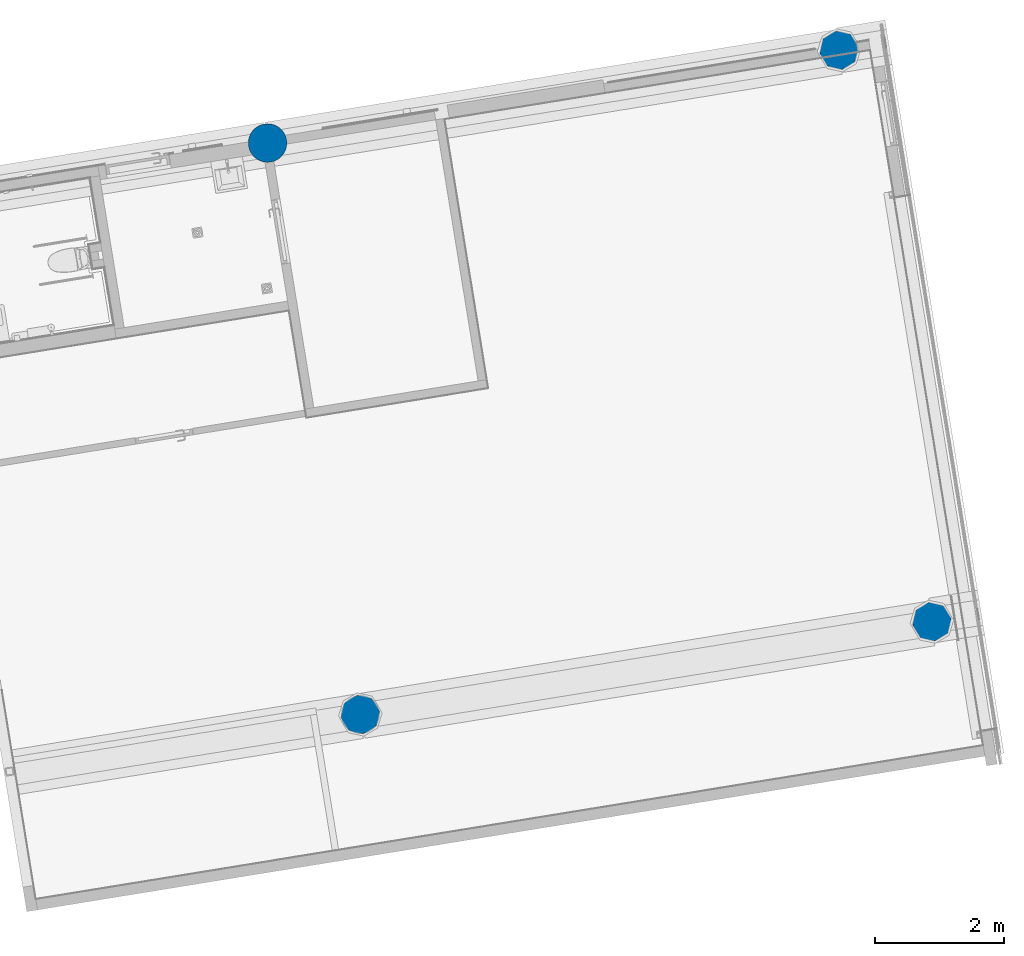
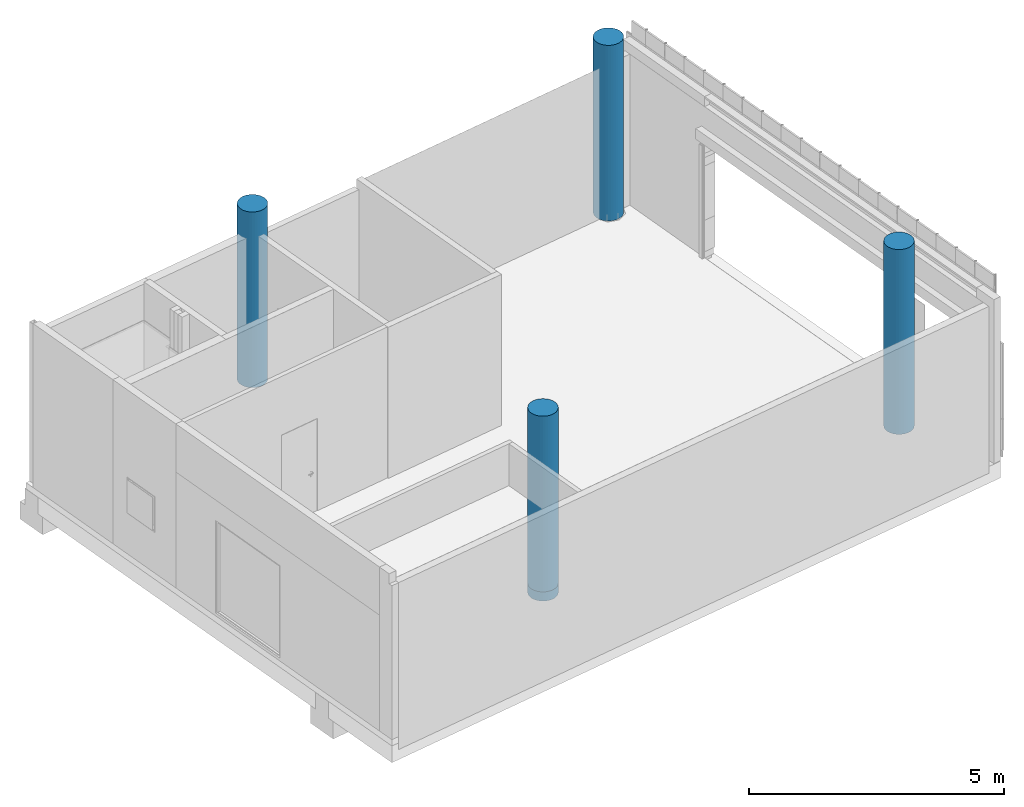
# One storey, part 18 of 38: 5 columns.
"""IFC2X3 building model written with IfcOpenShell, lengths in millimetres."""

from ifc_helpers import new_model, entity, si_unit, converted_unit, derived_unit, direction, frame, origin, origin_with_axes, place, context, subcontext, project, spatial, faceted_brep, material, type_object, element, save


model = new_model("IFC2X3")

# Units and contexts
model_context = context("Model", 3, precision=0.01, world=origin(), true_north=direction((6.12323399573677e-17, 1.0)))
plan_context = context("Plan", 3, precision=1e-05, world=origin_with_axes())
body_context = subcontext(model_context, "Body", "Model", "MODEL_VIEW")
ifc_project = project(units=[converted_unit("PLANEANGLEUNIT", "DEGREE", entity("IfcPositiveLengthMeasure", 0.0174532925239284), si_unit("PLANEANGLEUNIT", "RADIAN"), dimensions=[0, 0, 0, 0, 0, 0, 0]), si_unit("AREAUNIT", "SQUARE_METRE"), si_unit("LENGTHUNIT", "METRE", prefix="MILLI"), si_unit("MASSUNIT", "GRAM", prefix="KILO"), si_unit("POWERUNIT", "WATT"), si_unit("PRESSUREUNIT", "PASCAL", prefix="KILO"), si_unit("FORCEUNIT", "NEWTON", prefix="KILO"), si_unit("ELECTRICVOLTAGEUNIT", "VOLT"), si_unit("ELECTRICCURRENTUNIT", "AMPERE"), si_unit("THERMODYNAMICTEMPERATUREUNIT", "DEGREE_CELSIUS"), si_unit("TIMEUNIT", "SECOND"), si_unit("VOLUMEUNIT", "CUBIC_METRE"), derived_unit("LINEARVELOCITYUNIT", [(si_unit("LENGTHUNIT", "METRE"), 1), (si_unit("TIMEUNIT", "SECOND"), -1)]), derived_unit("VOLUMETRICFLOWRATEUNIT", [(si_unit("VOLUMEUNIT", "CUBIC_METRE"), 1), (si_unit("TIMEUNIT", "SECOND"), -1)]), derived_unit("THERMALTRANSMITTANCEUNIT", [(si_unit("POWERUNIT", "WATT"), 1), (si_unit("THERMODYNAMICTEMPERATUREUNIT", "KELVIN"), -1), (si_unit("AREAUNIT", "SQUARE_METRE"), -1)]), derived_unit("SOUNDPRESSUREUNIT", [(si_unit("PRESSUREUNIT", "PASCAL"), 1)])], contexts=[model_context, plan_context])

# Site, building, storey
site_placement = place(None, frame((-0.00071070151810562, 0.00438415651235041, 0.0), z_axis=(0.0, 0.0, 1.0), x_axis=(-0.160236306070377, 0.987078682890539, 0.0)))
site = spatial("IfcSite", under=ifc_project, at=site_placement, Name="Default", CompositionType="ELEMENT")
building_placement = place(site_placement, origin_with_axes())
building = spatial("IfcBuilding", under=site, at=building_placement, Name="TOO", CompositionType="ELEMENT")
storey_placement = place(building_placement, frame((0.0, 0.0, 50999.9999999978), z_axis=(0.0, 0.0, 1.0), x_axis=(1.0, 0.0, 0.0)))
storey = spatial("IfcBuildingStorey", under=building, at=storey_placement, Name="Nivå D-H01", CompositionType="ELEMENT", Elevation=50999.9999999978)

# Columns
ifc_material = material(Name="A200 - Betong")
column_type_1 = type_object("IfcColumnType", Name="A222 - Prefabrikert Sirkulær Betongsøyle:A222 - Prefabrikert Sirkulær Betongsøyle - Ø 600 mm", PredefinedType="COLUMN", material=ifc_material)
column_1_placement = place(storey_placement, frame((0.0, 0.0, -50999.9999999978), z_axis=(0.0, 0.0, 1.0), x_axis=(1.0, 0.0, 0.0)))
element("IfcColumn", 1, at=column_1_placement, inside=storey, type_object=column_type_1, Name="A222 - Prefabrikert Sirkulær Betongsøyle:A222 - Prefabrikert Sirkulær Betongsøyle - Ø 600 mm", ObjectType="A222 - Prefabrikert Sirkulær Betongsøyle:A222 - Prefabrikert Sirkulær Betongsøyle - Ø 600 mm", context=body_context, shape_type="Brep", body=[
    faceted_brep([(771173.06196997, -603554.574952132, 55199.9999999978), (771177.619644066, -603502.480498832, 55199.9999999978), (771177.619644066, -603502.480498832, 50779.9999999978), (771173.06196997, -603554.574952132, 50779.9999999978), (771173.06196997, -603450.386045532, 55199.9999999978), (771173.06196997, -603450.386045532, 50779.9999999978), (771159.527430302, -603399.874455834, 55199.9999999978), (771159.527430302, -603399.874455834, 50779.9999999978), (771137.427265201, -603352.480498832, 55199.9999999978), (771137.427265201, -603352.480498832, 50779.9999999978), (771107.432977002, -603309.644215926, 55199.9999999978), (771107.432977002, -603309.644215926, 50779.9999999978), (771070.455926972, -603272.667165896, 55199.9999999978), (771070.455926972, -603272.667165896, 50779.9999999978), (771027.619644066, -603242.672877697, 55199.9999999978), (771027.619644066, -603242.672877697, 50779.9999999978), (770980.225687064, -603220.572712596, 55199.9999999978), (770980.225687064, -603220.572712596, 50779.9999999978), (770929.714097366, -603207.038172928, 55199.9999999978), (770929.714097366, -603207.038172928, 50779.9999999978), (770877.619644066, -603202.480498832, 55199.9999999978), (770877.619644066, -603202.480498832, 50779.9999999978), (770825.525190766, -603207.038172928, 55199.9999999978), (770825.525190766, -603207.038172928, 50779.9999999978), (770775.013601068, -603220.572712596, 55199.9999999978), (770775.013601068, -603220.572712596, 50779.9999999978), (770727.619644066, -603242.672877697, 55199.9999999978), (770727.619644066, -603242.672877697, 50779.9999999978), (770684.78336116, -603272.667165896, 55199.9999999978), (770684.78336116, -603272.667165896, 50779.9999999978), (770647.80631113, -603309.644215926, 55199.9999999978), (770647.80631113, -603309.644215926, 50779.9999999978), (770617.812022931, -603352.480498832, 55199.9999999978), (770617.812022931, -603352.480498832, 50779.9999999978), (770595.71185783, -603399.874455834, 55199.9999999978), (770595.71185783, -603399.874455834, 50779.9999999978), (770582.177318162, -603450.386045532, 55199.9999999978), (770582.177318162, -603450.386045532, 50779.9999999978), (770577.619644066, -603502.480498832, 55199.9999999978), (770577.619644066, -603502.480498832, 50779.9999999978), (770582.177318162, -603554.574952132, 55199.9999999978), (770582.177318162, -603554.574952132, 50779.9999999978), (770595.71185783, -603605.08654183, 55199.9999999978), (770595.71185783, -603605.08654183, 50779.9999999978), (770617.812022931, -603652.480498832, 55199.9999999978), (770617.812022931, -603652.480498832, 50779.9999999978), (770647.80631113, -603695.316781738, 55199.9999999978), (770647.80631113, -603695.316781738, 50779.9999999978), (770684.78336116, -603732.293831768, 55199.9999999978), (770684.78336116, -603732.293831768, 50779.9999999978), (770727.619644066, -603762.288119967, 55199.9999999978), (770727.619644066, -603762.288119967, 50779.9999999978), (770775.013601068, -603784.388285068, 55199.9999999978), (770775.013601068, -603784.388285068, 50779.9999999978), (770825.525190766, -603797.922824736, 55199.9999999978), (770825.525190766, -603797.922824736, 50779.9999999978), (770877.619644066, -603802.480498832, 55199.9999999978), (770877.619644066, -603802.480498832, 50779.9999999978), (770929.714097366, -603797.922824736, 55199.9999999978), (770929.714097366, -603797.922824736, 50779.9999999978), (770980.225687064, -603784.388285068, 55199.9999999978), (770980.225687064, -603784.388285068, 50779.9999999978), (771027.619644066, -603762.288119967, 55199.9999999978), (771027.619644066, -603762.288119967, 50779.9999999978), (771070.455926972, -603732.293831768, 55199.9999999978), (771070.455926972, -603732.293831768, 50779.9999999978), (771107.432977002, -603695.316781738, 55199.9999999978), (771107.432977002, -603695.316781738, 50779.9999999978), (771137.427265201, -603652.480498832, 55199.9999999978), (771137.427265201, -603652.480498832, 50779.9999999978), (771159.527430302, -603605.08654183, 55199.9999999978), (771159.527430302, -603605.08654183, 50779.9999999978)], [[[0, 1, 2, 3]], [[1, 4, 5, 2]], [[4, 6, 7, 5]], [[6, 8, 9, 7]], [[8, 10, 11, 9]], [[10, 12, 13, 11]], [[12, 14, 15, 13]], [[14, 16, 17, 15]], [[16, 18, 19, 17]], [[18, 20, 21, 19]], [[20, 22, 23, 21]], [[22, 24, 25, 23]], [[24, 26, 27, 25]], [[26, 28, 29, 27]], [[28, 30, 31, 29]], [[30, 32, 33, 31]], [[32, 34, 35, 33]], [[34, 36, 37, 35]], [[36, 38, 39, 37]], [[38, 40, 41, 39]], [[40, 42, 43, 41]], [[42, 44, 45, 43]], [[44, 46, 47, 45]], [[46, 48, 49, 47]], [[48, 50, 51, 49]], [[50, 52, 53, 51]], [[52, 54, 55, 53]], [[54, 56, 57, 55]], [[56, 58, 59, 57]], [[58, 60, 61, 59]], [[60, 62, 63, 61]], [[62, 64, 65, 63]], [[64, 66, 67, 65]], [[66, 68, 69, 67]], [[68, 70, 71, 69]], [[70, 0, 3, 71]], [[3, 2, 5, 7, 9, 11, 13, 15, 17, 19, 21, 23, 25, 27, 29, 31, 33, 35, 37, 39, 41, 43, 45, 47, 49, 51, 53, 55, 57, 59, 61, 63, 65, 67, 69, 71]], [[70, 68, 66, 64, 62, 60, 58, 56, 54, 52, 50, 48, 46, 44, 42, 40, 38, 36, 34, 32, 30, 28, 26, 24, 22, 20, 18, 16, 14, 12, 10, 8, 6, 4, 1, 0]]], orient=[[False], [False], [False], [False], [False], [False], [False], [False], [False], [False], [False], [False], [False], [False], [False], [False], [False], [False], [False], [False], [False], [False], [False], [False], [False], [False], [False], [False], [False], [False], [False], [False], [False], [False], [False], [False], [False], [False]]),
])
column_type_2 = type_object("IfcColumnType", Name="A222 - Prefabrikert Sirkulær Betongsøyle:A222 - Prefabrikert Sirkulær Betongsøyle - Ø 600 mm", PredefinedType="COLUMN", material=ifc_material)
column_2_placement = place(storey_placement, frame((0.0, 0.0, -50999.9999999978), z_axis=(0.0, 0.0, 1.0), x_axis=(1.0, 0.0, 0.0)))
element("IfcColumn", 2, at=column_2_placement, inside=storey, type_object=column_type_2, Name="A222 - Prefabrikert Sirkulær Betongsøyle:A222 - Prefabrikert Sirkulær Betongsøyle - Ø 600 mm", ObjectType="A222 - Prefabrikert Sirkulær Betongsøyle:A222 - Prefabrikert Sirkulær Betongsøyle - Ø 600 mm", context=body_context, shape_type="Brep", body=[
    faceted_brep([(771173.06196997, -594554.574952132, 55199.9999999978), (771177.619644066, -594502.480498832, 55199.9999999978), (771177.619644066, -594502.480498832, 50779.9999999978), (771173.06196997, -594554.574952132, 50779.9999999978), (771173.06196997, -594450.386045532, 55199.9999999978), (771173.06196997, -594450.386045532, 50779.9999999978), (771159.527430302, -594399.874455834, 55199.9999999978), (771159.527430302, -594399.874455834, 50779.9999999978), (771137.427265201, -594352.480498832, 55199.9999999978), (771137.427265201, -594352.480498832, 50779.9999999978), (771107.432977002, -594309.644215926, 55199.9999999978), (771107.432977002, -594309.644215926, 50779.9999999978), (771070.455926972, -594272.667165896, 55199.9999999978), (771070.455926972, -594272.667165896, 50779.9999999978), (771027.619644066, -594242.672877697, 55199.9999999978), (771027.619644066, -594242.672877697, 50779.9999999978), (770980.225687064, -594220.572712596, 55199.9999999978), (770980.225687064, -594220.572712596, 50779.9999999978), (770929.714097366, -594207.038172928, 55199.9999999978), (770929.714097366, -594207.038172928, 50779.9999999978), (770877.619644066, -594202.480498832, 55199.9999999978), (770877.619644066, -594202.480498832, 50779.9999999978), (770825.525190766, -594207.038172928, 55199.9999999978), (770825.525190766, -594207.038172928, 50779.9999999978), (770775.013601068, -594220.572712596, 55199.9999999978), (770775.013601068, -594220.572712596, 50779.9999999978), (770727.619644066, -594242.672877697, 55199.9999999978), (770727.619644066, -594242.672877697, 50779.9999999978), (770684.78336116, -594272.667165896, 55199.9999999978), (770684.78336116, -594272.667165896, 50779.9999999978), (770647.80631113, -594309.644215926, 55199.9999999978), (770647.80631113, -594309.644215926, 50779.9999999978), (770617.812022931, -594352.480498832, 55199.9999999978), (770617.812022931, -594352.480498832, 50779.9999999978), (770595.71185783, -594399.874455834, 55199.9999999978), (770595.71185783, -594399.874455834, 50779.9999999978), (770582.177318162, -594450.386045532, 55199.9999999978), (770582.177318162, -594450.386045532, 50779.9999999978), (770577.619644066, -594502.480498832, 55199.9999999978), (770577.619644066, -594502.480498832, 50779.9999999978), (770582.177318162, -594554.574952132, 55199.9999999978), (770582.177318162, -594554.574952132, 50779.9999999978), (770595.71185783, -594605.08654183, 55199.9999999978), (770595.71185783, -594605.08654183, 50779.9999999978), (770617.812022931, -594652.480498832, 55199.9999999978), (770617.812022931, -594652.480498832, 50779.9999999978), (770647.80631113, -594695.316781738, 55199.9999999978), (770647.80631113, -594695.316781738, 50779.9999999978), (770684.78336116, -594732.293831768, 55199.9999999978), (770684.78336116, -594732.293831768, 50779.9999999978), (770727.619644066, -594762.288119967, 55199.9999999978), (770727.619644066, -594762.288119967, 50779.9999999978), (770775.013601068, -594784.388285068, 55199.9999999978), (770775.013601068, -594784.388285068, 50779.9999999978), (770825.525190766, -594797.922824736, 55199.9999999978), (770825.525190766, -594797.922824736, 50779.9999999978), (770877.619644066, -594802.480498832, 55199.9999999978), (770877.619644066, -594802.480498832, 50779.9999999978), (770929.714097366, -594797.922824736, 55199.9999999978), (770929.714097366, -594797.922824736, 50779.9999999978), (770980.225687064, -594784.388285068, 55199.9999999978), (770980.225687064, -594784.388285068, 50779.9999999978), (771027.619644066, -594762.288119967, 55199.9999999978), (771027.619644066, -594762.288119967, 50779.9999999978), (771070.455926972, -594732.293831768, 55199.9999999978), (771070.455926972, -594732.293831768, 50779.9999999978), (771107.432977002, -594695.316781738, 55199.9999999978), (771107.432977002, -594695.316781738, 50779.9999999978), (771137.427265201, -594652.480498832, 55199.9999999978), (771137.427265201, -594652.480498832, 50779.9999999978), (771159.527430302, -594605.08654183, 55199.9999999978), (771159.527430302, -594605.08654183, 50779.9999999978)], [[[0, 1, 2, 3]], [[1, 4, 5, 2]], [[4, 6, 7, 5]], [[6, 8, 9, 7]], [[8, 10, 11, 9]], [[10, 12, 13, 11]], [[12, 14, 15, 13]], [[14, 16, 17, 15]], [[16, 18, 19, 17]], [[18, 20, 21, 19]], [[20, 22, 23, 21]], [[22, 24, 25, 23]], [[24, 26, 27, 25]], [[26, 28, 29, 27]], [[28, 30, 31, 29]], [[30, 32, 33, 31]], [[32, 34, 35, 33]], [[34, 36, 37, 35]], [[36, 38, 39, 37]], [[38, 40, 41, 39]], [[40, 42, 43, 41]], [[42, 44, 45, 43]], [[44, 46, 47, 45]], [[46, 48, 49, 47]], [[48, 50, 51, 49]], [[50, 52, 53, 51]], [[52, 54, 55, 53]], [[54, 56, 57, 55]], [[56, 58, 59, 57]], [[58, 60, 61, 59]], [[60, 62, 63, 61]], [[62, 64, 65, 63]], [[64, 66, 67, 65]], [[66, 68, 69, 67]], [[68, 70, 71, 69]], [[70, 0, 3, 71]], [[3, 2, 5, 7, 9, 11, 13, 15, 17, 19, 21, 23, 25, 27, 29, 31, 33, 35, 37, 39, 41, 43, 45, 47, 49, 51, 53, 55, 57, 59, 61, 63, 65, 67, 69, 71]], [[70, 68, 66, 64, 62, 60, 58, 56, 54, 52, 50, 48, 46, 44, 42, 40, 38, 36, 34, 32, 30, 28, 26, 24, 22, 20, 18, 16, 14, 12, 10, 8, 6, 4, 1, 0]]], orient=[[False], [False], [False], [False], [False], [False], [False], [False], [False], [False], [False], [False], [False], [False], [False], [False], [False], [False], [False], [False], [False], [False], [False], [False], [False], [False], [False], [False], [False], [False], [False], [False], [False], [False], [False], [False], [False], [False]]),
])
column_type_3 = type_object("IfcColumnType", Name="A222 - Prefabrikert Sirkulær Betongsøyle:A222 - Prefabrikert Sirkulær Betongsøyle - Ø 600 mm", PredefinedType="COLUMN", material=ifc_material)
column_3_placement = place(storey_placement, frame((0.0, 0.0, -50999.9999999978), z_axis=(0.0, 0.0, 1.0), x_axis=(1.0, 0.0, 0.0)))
element("IfcColumn", 3, at=column_3_placement, inside=storey, type_object=column_type_3, Name="A222 - Prefabrikert Sirkulær Betongsøyle:A222 - Prefabrikert Sirkulær Betongsøyle - Ø 600 mm", ObjectType="A222 - Prefabrikert Sirkulær Betongsøyle:A222 - Prefabrikert Sirkulær Betongsøyle - Ø 600 mm", context=body_context, shape_type="Brep", body=[
    faceted_brep([(780173.06196997, -603554.574952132, 55199.9999999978), (780177.619644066, -603502.480498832, 55199.9999999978), (780177.619644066, -603502.480498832, 50999.9999999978), (780173.06196997, -603554.574952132, 50999.9999999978), (780173.06196997, -603450.386045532, 55199.9999999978), (780173.06196997, -603450.386045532, 50999.9999999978), (780159.527430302, -603399.874455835, 55199.9999999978), (780159.527430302, -603399.874455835, 50999.9999999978), (780137.427265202, -603352.480498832, 55199.9999999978), (780137.427265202, -603352.480498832, 50999.9999999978), (780107.432977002, -603309.644215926, 55199.9999999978), (780107.432977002, -603309.644215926, 50999.9999999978), (780070.455926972, -603272.667165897, 55199.9999999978), (780070.455926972, -603272.667165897, 50999.9999999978), (780027.619644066, -603242.672877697, 55199.9999999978), (780027.619644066, -603242.672877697, 50999.9999999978), (779980.225687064, -603220.572712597, 55199.9999999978), (779980.225687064, -603220.572712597, 50999.9999999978), (779929.714097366, -603207.038172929, 55199.9999999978), (779929.714097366, -603207.038172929, 50999.9999999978), (779877.619644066, -603202.480498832, 55199.9999999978), (779877.619644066, -603202.480498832, 50999.9999999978), (779825.525190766, -603207.038172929, 55199.9999999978), (779825.525190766, -603207.038172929, 50999.9999999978), (779775.013601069, -603220.572712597, 55199.9999999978), (779775.013601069, -603220.572712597, 50999.9999999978), (779727.619644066, -603242.672877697, 55199.9999999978), (779727.619644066, -603242.672877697, 50999.9999999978), (779684.78336116, -603272.667165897, 55199.9999999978), (779684.78336116, -603272.667165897, 50999.9999999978), (779647.806311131, -603309.644215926, 55199.9999999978), (779647.806311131, -603309.644215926, 50999.9999999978), (779617.812022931, -603352.480498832, 55199.9999999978), (779617.812022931, -603352.480498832, 50999.9999999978), (779595.711857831, -603399.874455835, 55199.9999999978), (779595.711857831, -603399.874455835, 50999.9999999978), (779582.177318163, -603450.386045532, 55199.9999999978), (779582.177318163, -603450.386045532, 50999.9999999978), (779577.619644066, -603502.480498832, 55199.9999999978), (779577.619644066, -603502.480498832, 50999.9999999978), (779582.177318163, -603554.574952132, 55199.9999999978), (779582.177318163, -603554.574952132, 50999.9999999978), (779595.711857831, -603605.08654183, 55199.9999999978), (779595.711857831, -603605.08654183, 50999.9999999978), (779617.812022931, -603652.480498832, 55199.9999999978), (779617.812022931, -603652.480498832, 50999.9999999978), (779647.806311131, -603695.316781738, 55199.9999999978), (779647.806311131, -603695.316781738, 50999.9999999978), (779684.78336116, -603732.293831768, 55199.9999999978), (779684.78336116, -603732.293831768, 50999.9999999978), (779727.619644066, -603762.288119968, 55199.9999999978), (779727.619644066, -603762.288119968, 50999.9999999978), (779775.013601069, -603784.388285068, 55199.9999999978), (779775.013601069, -603784.388285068, 50999.9999999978), (779825.525190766, -603797.922824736, 55199.9999999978), (779825.525190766, -603797.922824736, 50999.9999999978), (779877.619644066, -603802.480498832, 55199.9999999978), (779877.619644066, -603802.480498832, 50999.9999999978), (779929.714097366, -603797.922824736, 55199.9999999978), (779929.714097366, -603797.922824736, 50999.9999999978), (779980.225687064, -603784.388285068, 55199.9999999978), (779980.225687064, -603784.388285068, 50999.9999999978), (780027.619644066, -603762.288119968, 55199.9999999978), (780027.619644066, -603762.288119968, 50999.9999999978), (780070.455926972, -603732.293831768, 55199.9999999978), (780070.455926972, -603732.293831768, 50999.9999999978), (780107.432977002, -603695.316781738, 55199.9999999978), (780107.432977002, -603695.316781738, 50999.9999999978), (780137.427265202, -603652.480498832, 55199.9999999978), (780137.427265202, -603652.480498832, 50999.9999999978), (780159.527430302, -603605.08654183, 55199.9999999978), (780159.527430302, -603605.08654183, 50999.9999999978)], [[[0, 1, 2, 3]], [[1, 4, 5, 2]], [[4, 6, 7, 5]], [[6, 8, 9, 7]], [[8, 10, 11, 9]], [[10, 12, 13, 11]], [[12, 14, 15, 13]], [[14, 16, 17, 15]], [[16, 18, 19, 17]], [[18, 20, 21, 19]], [[20, 22, 23, 21]], [[22, 24, 25, 23]], [[24, 26, 27, 25]], [[26, 28, 29, 27]], [[28, 30, 31, 29]], [[30, 32, 33, 31]], [[32, 34, 35, 33]], [[34, 36, 37, 35]], [[36, 38, 39, 37]], [[38, 40, 41, 39]], [[40, 42, 43, 41]], [[42, 44, 45, 43]], [[44, 46, 47, 45]], [[46, 48, 49, 47]], [[48, 50, 51, 49]], [[50, 52, 53, 51]], [[52, 54, 55, 53]], [[54, 56, 57, 55]], [[56, 58, 59, 57]], [[58, 60, 61, 59]], [[60, 62, 63, 61]], [[62, 64, 65, 63]], [[64, 66, 67, 65]], [[66, 68, 69, 67]], [[68, 70, 71, 69]], [[70, 0, 3, 71]], [[3, 2, 5, 7, 9, 11, 13, 15, 17, 19, 21, 23, 25, 27, 29, 31, 33, 35, 37, 39, 41, 43, 45, 47, 49, 51, 53, 55, 57, 59, 61, 63, 65, 67, 69, 71]], [[70, 68, 66, 64, 62, 60, 58, 56, 54, 52, 50, 48, 46, 44, 42, 40, 38, 36, 34, 32, 30, 28, 26, 24, 22, 20, 18, 16, 14, 12, 10, 8, 6, 4, 1, 0]]], orient=[[False], [False], [False], [False], [False], [False], [False], [False], [False], [False], [False], [False], [False], [False], [False], [False], [False], [False], [False], [False], [False], [False], [False], [False], [False], [False], [False], [False], [False], [False], [False], [False], [False], [False], [False], [False], [False], [False]]),
])
column_type_4 = type_object("IfcColumnType", Name="A222 - Prefabrikert Sirkulær Betongsøyle:A222 - Prefabrikert Sirkulær Betongsøyle - Ø 600 mm", PredefinedType="COLUMN", material=ifc_material)
column_4_placement = place(storey_placement, frame((770877.619644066, -594502.480498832, -50999.9999999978), z_axis=(0.0, 0.0, 1.0), x_axis=(1.0, 0.0, 0.0)))
element("IfcColumn", 4, at=column_4_placement, inside=storey, type_object=column_type_4, Name="A222 - Prefabrikert Sirkulær Betongsøyle:A222 - Prefabrikert Sirkulær Betongsøyle - Ø 600 mm", ObjectType="A222 - Prefabrikert Sirkulær Betongsøyle:A222 - Prefabrikert Sirkulær Betongsøyle - Ø 600 mm", context=body_context, shape_type="Brep", body=[
    faceted_brep([(295.442325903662, -52.0944533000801, 55199.9999999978), (300.0, -7.38964445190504e-13, 55199.9999999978), (300.0, -7.38964445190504e-13, 50999.9999999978), (295.442325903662, -52.0944533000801, 50999.9999999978), (295.442325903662, 52.0944533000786, 55199.9999999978), (295.442325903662, 52.0944533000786, 50999.9999999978), (281.907786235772, 102.6060429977, 55199.9999999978), (281.907786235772, 102.6060429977, 50999.9999999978), (259.807621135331, 150.0, 55199.9999999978), (259.807621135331, 150.0, 50999.9999999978), (229.813332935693, 192.836282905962, 55199.9999999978), (229.813332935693, 192.836282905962, 50999.9999999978), (192.836282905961, 229.813332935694, 55199.9999999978), (192.836282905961, 229.813332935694, 50999.9999999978), (149.999999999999, 259.807621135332, 55199.9999999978), (149.999999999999, 259.807621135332, 50999.9999999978), (102.606042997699, 281.907786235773, 55199.9999999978), (102.606042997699, 281.907786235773, 50999.9999999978), (52.0944533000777, 295.442325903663, 55199.9999999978), (52.0944533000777, 295.442325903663, 50999.9999999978), (-1.6023079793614e-12, 300.000000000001, 55199.9999999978), (-1.6023079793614e-12, 300.000000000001, 50999.9999999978), (-52.0944533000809, 295.442325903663, 55199.9999999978), (-52.0944533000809, 295.442325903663, 50999.9999999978), (-102.606042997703, 281.907786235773, 55199.9999999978), (-102.606042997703, 281.907786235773, 50999.9999999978), (-150.000000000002, 259.807621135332, 55199.9999999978), (-150.000000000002, 259.807621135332, 50999.9999999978), (-192.836282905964, 229.813332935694, 55199.9999999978), (-192.836282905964, 229.813332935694, 50999.9999999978), (-229.813332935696, 192.836282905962, 55199.9999999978), (-229.813332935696, 192.836282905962, 50999.9999999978), (-259.807621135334, 150.0, 55199.9999999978), (-259.807621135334, 150.0, 50999.9999999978), (-281.907786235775, 102.6060429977, 55199.9999999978), (-281.907786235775, 102.6060429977, 50999.9999999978), (-295.442325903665, 52.0944533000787, 55199.9999999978), (-295.442325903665, 52.0944533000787, 50999.9999999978), (-300.000000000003, -6.96331881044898e-13, 55199.9999999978), (-300.000000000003, -6.96331881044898e-13, 50999.9999999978), (-295.442325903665, -52.09445330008, 55199.9999999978), (-295.442325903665, -52.09445330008, 50999.9999999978), (-281.907786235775, -102.606042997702, 55199.9999999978), (-281.907786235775, -102.606042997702, 50999.9999999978), (-259.807621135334, -150.000000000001, 55199.9999999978), (-259.807621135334, -150.000000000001, 50999.9999999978), (-229.813332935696, -192.836282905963, 55199.9999999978), (-229.813332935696, -192.836282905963, 50999.9999999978), (-192.836282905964, -229.813332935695, 55199.9999999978), (-192.836282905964, -229.813332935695, 50999.9999999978), (-150.000000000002, -259.807621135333, 55199.9999999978), (-150.000000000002, -259.807621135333, 50999.9999999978), (-102.606042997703, -281.907786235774, 55199.9999999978), (-102.606042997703, -281.907786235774, 50999.9999999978), (-52.0944533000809, -295.442325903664, 55199.9999999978), (-52.0944533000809, -295.442325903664, 50999.9999999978), (-1.67578678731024e-12, -300.000000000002, 55199.9999999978), (-1.67578678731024e-12, -300.000000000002, 50999.9999999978), (52.0944533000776, -295.442325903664, 55199.9999999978), (52.0944533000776, -295.442325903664, 50999.9999999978), (102.606042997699, -281.907786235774, 55199.9999999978), (102.606042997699, -281.907786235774, 50999.9999999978), (149.999999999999, -259.807621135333, 55199.9999999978), (149.999999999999, -259.807621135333, 50999.9999999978), (192.836282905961, -229.813332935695, 55199.9999999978), (192.836282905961, -229.813332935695, 50999.9999999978), (229.813332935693, -192.836282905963, 55199.9999999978), (229.813332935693, -192.836282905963, 50999.9999999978), (259.807621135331, -150.000000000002, 55199.9999999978), (259.807621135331, -150.000000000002, 50999.9999999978), (281.907786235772, -102.606042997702, 55199.9999999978), (281.907786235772, -102.606042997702, 50999.9999999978)], [[[0, 1, 2, 3]], [[1, 4, 5, 2]], [[4, 6, 7, 5]], [[6, 8, 9, 7]], [[8, 10, 11, 9]], [[10, 12, 13, 11]], [[12, 14, 15, 13]], [[14, 16, 17, 15]], [[16, 18, 19, 17]], [[18, 20, 21, 19]], [[20, 22, 23, 21]], [[22, 24, 25, 23]], [[24, 26, 27, 25]], [[26, 28, 29, 27]], [[28, 30, 31, 29]], [[30, 32, 33, 31]], [[32, 34, 35, 33]], [[34, 36, 37, 35]], [[36, 38, 39, 37]], [[38, 40, 41, 39]], [[40, 42, 43, 41]], [[42, 44, 45, 43]], [[44, 46, 47, 45]], [[46, 48, 49, 47]], [[48, 50, 51, 49]], [[50, 52, 53, 51]], [[52, 54, 55, 53]], [[54, 56, 57, 55]], [[56, 58, 59, 57]], [[58, 60, 61, 59]], [[60, 62, 63, 61]], [[62, 64, 65, 63]], [[64, 66, 67, 65]], [[66, 68, 69, 67]], [[68, 70, 71, 69]], [[70, 0, 3, 71]], [[3, 2, 5, 7, 9, 11, 13, 15, 17, 19, 21, 23, 25, 27, 29, 31, 33, 35, 37, 39, 41, 43, 45, 47, 49, 51, 53, 55, 57, 59, 61, 63, 65, 67, 69, 71]], [[70, 68, 66, 64, 62, 60, 58, 56, 54, 52, 50, 48, 46, 44, 42, 40, 38, 36, 34, 32, 30, 28, 26, 24, 22, 20, 18, 16, 14, 12, 10, 8, 6, 4, 1, 0]]], orient=[[False], [False], [False], [False], [False], [False], [False], [False], [False], [False], [False], [False], [False], [False], [False], [False], [False], [False], [False], [False], [False], [False], [False], [False], [False], [False], [False], [False], [False], [False], [False], [False], [False], [False], [False], [False], [False], [False]]),
])
column_type_5 = type_object("IfcColumnType", Name="A222 - Prefabrikert Sirkulær Betongsøyle:A222 - Prefabrikert Sirkulær Betongsøyle - Ø 600 mm", PredefinedType="COLUMN", material=ifc_material)
column_5_placement = place(storey_placement, frame((0.0, 0.0, -50999.9999999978), z_axis=(0.0, 0.0, 1.0), x_axis=(1.0, 0.0, 0.0)))
element("IfcColumn", 5, at=column_5_placement, inside=storey, type_object=column_type_5, Name="A222 - Prefabrikert Sirkulær Betongsøyle:A222 - Prefabrikert Sirkulær Betongsøyle - Ø 600 mm", ObjectType="A222 - Prefabrikert Sirkulær Betongsøyle:A222 - Prefabrikert Sirkulær Betongsøyle - Ø 600 mm", context=body_context, shape_type="Brep", body=[
    faceted_brep([(780173.06196997, -594554.574952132, 55199.9999999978), (780177.619644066, -594502.480498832, 55199.9999999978), (780177.619644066, -594502.480498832, 50999.9999999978), (780173.06196997, -594554.574952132, 50999.9999999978), (780173.06196997, -594450.386045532, 55199.9999999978), (780173.06196997, -594450.386045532, 50999.9999999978), (780159.527430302, -594399.874455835, 55199.9999999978), (780159.527430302, -594399.874455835, 50999.9999999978), (780137.427265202, -594352.480498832, 55199.9999999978), (780137.427265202, -594352.480498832, 50999.9999999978), (780107.432977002, -594309.644215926, 55199.9999999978), (780107.432977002, -594309.644215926, 50999.9999999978), (780070.455926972, -594272.667165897, 55199.9999999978), (780070.455926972, -594272.667165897, 50999.9999999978), (780027.619644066, -594242.672877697, 55199.9999999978), (780027.619644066, -594242.672877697, 50999.9999999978), (779980.225687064, -594220.572712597, 55199.9999999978), (779980.225687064, -594220.572712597, 50999.9999999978), (779929.714097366, -594207.038172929, 55199.9999999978), (779929.714097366, -594207.038172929, 50999.9999999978), (779877.619644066, -594202.480498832, 55199.9999999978), (779877.619644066, -594202.480498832, 50999.9999999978), (779825.525190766, -594207.038172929, 55199.9999999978), (779825.525190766, -594207.038172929, 50999.9999999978), (779775.013601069, -594220.572712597, 55199.9999999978), (779775.013601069, -594220.572712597, 50999.9999999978), (779727.619644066, -594242.672877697, 55199.9999999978), (779727.619644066, -594242.672877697, 50999.9999999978), (779684.78336116, -594272.667165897, 55199.9999999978), (779684.78336116, -594272.667165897, 50999.9999999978), (779647.806311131, -594309.644215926, 55199.9999999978), (779647.806311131, -594309.644215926, 50999.9999999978), (779617.812022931, -594352.480498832, 55199.9999999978), (779617.812022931, -594352.480498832, 50999.9999999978), (779595.711857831, -594399.874455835, 55199.9999999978), (779595.711857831, -594399.874455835, 50999.9999999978), (779582.177318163, -594450.386045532, 55199.9999999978), (779582.177318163, -594450.386045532, 50999.9999999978), (779577.619644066, -594502.480498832, 55199.9999999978), (779577.619644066, -594502.480498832, 50999.9999999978), (779582.177318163, -594554.574952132, 55199.9999999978), (779582.177318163, -594554.574952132, 50999.9999999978), (779595.711857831, -594605.08654183, 55199.9999999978), (779595.711857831, -594605.08654183, 50999.9999999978), (779617.812022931, -594652.480498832, 55199.9999999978), (779617.812022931, -594652.480498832, 50999.9999999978), (779647.806311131, -594695.316781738, 55199.9999999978), (779647.806311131, -594695.316781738, 50999.9999999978), (779684.78336116, -594732.293831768, 55199.9999999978), (779684.78336116, -594732.293831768, 50999.9999999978), (779727.619644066, -594762.288119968, 55199.9999999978), (779727.619644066, -594762.288119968, 50999.9999999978), (779775.013601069, -594784.388285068, 55199.9999999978), (779775.013601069, -594784.388285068, 50999.9999999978), (779825.525190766, -594797.922824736, 55199.9999999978), (779825.525190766, -594797.922824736, 50999.9999999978), (779877.619644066, -594802.480498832, 55199.9999999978), (779877.619644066, -594802.480498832, 50999.9999999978), (779929.714097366, -594797.922824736, 55199.9999999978), (779929.714097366, -594797.922824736, 50999.9999999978), (779980.225687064, -594784.388285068, 55199.9999999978), (779980.225687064, -594784.388285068, 50999.9999999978), (780027.619644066, -594762.288119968, 55199.9999999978), (780027.619644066, -594762.288119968, 50999.9999999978), (780070.455926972, -594732.293831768, 55199.9999999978), (780070.455926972, -594732.293831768, 50999.9999999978), (780107.432977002, -594695.316781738, 55199.9999999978), (780107.432977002, -594695.316781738, 50999.9999999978), (780137.427265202, -594652.480498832, 55199.9999999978), (780137.427265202, -594652.480498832, 50999.9999999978), (780159.527430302, -594605.08654183, 55199.9999999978), (780159.527430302, -594605.08654183, 50999.9999999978)], [[[0, 1, 2, 3]], [[1, 4, 5, 2]], [[4, 6, 7, 5]], [[6, 8, 9, 7]], [[8, 10, 11, 9]], [[10, 12, 13, 11]], [[12, 14, 15, 13]], [[14, 16, 17, 15]], [[16, 18, 19, 17]], [[18, 20, 21, 19]], [[20, 22, 23, 21]], [[22, 24, 25, 23]], [[24, 26, 27, 25]], [[26, 28, 29, 27]], [[28, 30, 31, 29]], [[30, 32, 33, 31]], [[32, 34, 35, 33]], [[34, 36, 37, 35]], [[36, 38, 39, 37]], [[38, 40, 41, 39]], [[40, 42, 43, 41]], [[42, 44, 45, 43]], [[44, 46, 47, 45]], [[46, 48, 49, 47]], [[48, 50, 51, 49]], [[50, 52, 53, 51]], [[52, 54, 55, 53]], [[54, 56, 57, 55]], [[56, 58, 59, 57]], [[58, 60, 61, 59]], [[60, 62, 63, 61]], [[62, 64, 65, 63]], [[64, 66, 67, 65]], [[66, 68, 69, 67]], [[68, 70, 71, 69]], [[70, 0, 3, 71]], [[3, 2, 5, 7, 9, 11, 13, 15, 17, 19, 21, 23, 25, 27, 29, 31, 33, 35, 37, 39, 41, 43, 45, 47, 49, 51, 53, 55, 57, 59, 61, 63, 65, 67, 69, 71]], [[70, 68, 66, 64, 62, 60, 58, 56, 54, 52, 50, 48, 46, 44, 42, 40, 38, 36, 34, 32, 30, 28, 26, 24, 22, 20, 18, 16, 14, 12, 10, 8, 6, 4, 1, 0]]], orient=[[False], [False], [False], [False], [False], [False], [False], [False], [False], [False], [False], [False], [False], [False], [False], [False], [False], [False], [False], [False], [False], [False], [False], [False], [False], [False], [False], [False], [False], [False], [False], [False], [False], [False], [False], [False], [False], [False]]),
])

save(model, "model.ifc")
